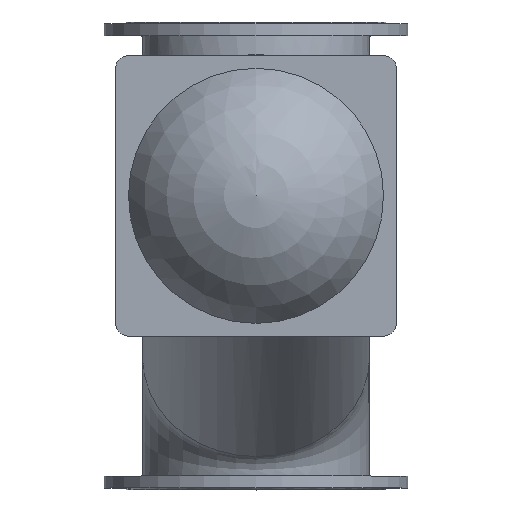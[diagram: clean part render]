
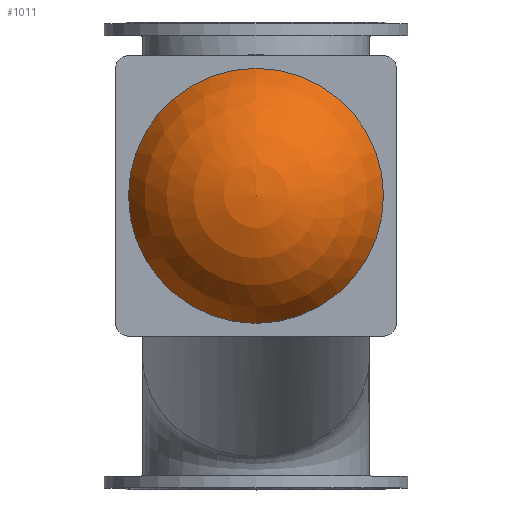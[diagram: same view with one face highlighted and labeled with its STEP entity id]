
A CAD part, top view. The second image highlights one B-rep face of the part: STEP entity #1011.
In plain terms, the highlighted spherical face has radius 325 mm.
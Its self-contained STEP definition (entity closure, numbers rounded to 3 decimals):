
#1011=ADVANCED_FACE('',(#2171),#2173,.T.);
#2171=FACE_OUTER_BOUND('',#2172,.T.);
#2172=EDGE_LOOP('',(#2879));
#2173=SPHERICAL_SURFACE('',#2174,325.);
#2174=AXIS2_PLACEMENT_3D('',#2175,#2176,#2177);
#2175=CARTESIAN_POINT('',(0.,140.,741.));
#2176=DIRECTION('',(0.,0.,-1.));
#2177=DIRECTION('',(0.,1.,0.));
#2879=ORIENTED_EDGE('',*,*,#3235,.T.);
#3235=EDGE_CURVE('',#3801,#3801,#3802,.F.);
#3801=VERTEX_POINT('',#6330);
#3802=CIRCLE('',#6331,300.);
#6330=CARTESIAN_POINT('',(0.,440.,866.));
#6331=AXIS2_PLACEMENT_3D('',#6332,#6333,#6334);
#6332=CARTESIAN_POINT('',(0.,140.,866.));
#6333=DIRECTION('',(0.,0.,-1.));
#6334=DIRECTION('',(0.,1.,0.));
